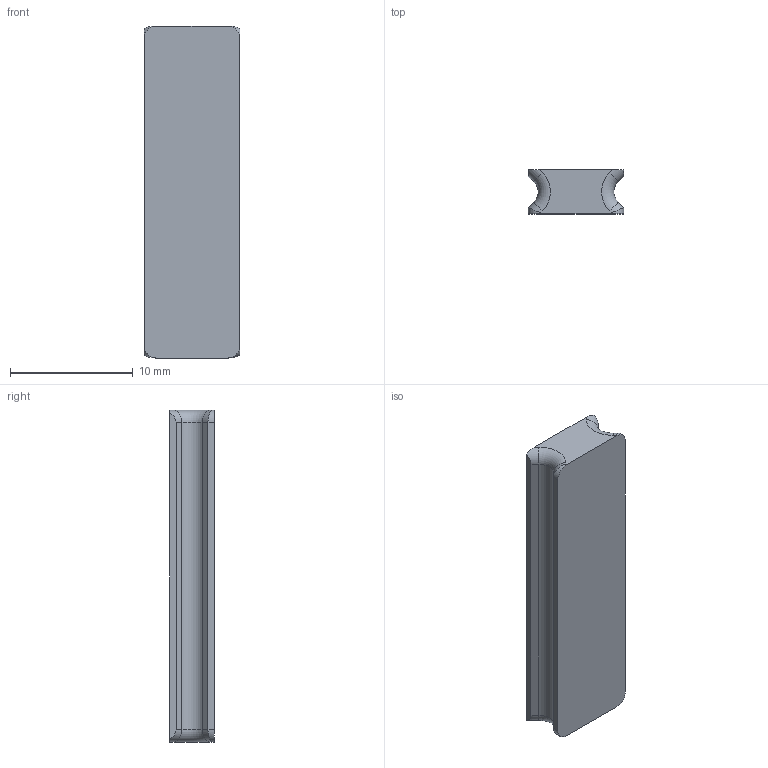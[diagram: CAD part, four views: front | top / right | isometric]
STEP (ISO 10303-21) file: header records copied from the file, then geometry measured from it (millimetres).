
FILE_DESCRIPTION(/* description */ (''),/* implementation_level */ '2;1');
FILE_NAME(/* name */ 'BOX_connect_z030_c027.stp',/* time_stamp */ '2024-02-16T08:50:18+01:00',/* author */ ('ott'),/* organization */ (''),/* preprocessor_version */ 'ST-DEVELOPER v19.2',/* originating_system */ 'Autodesk Inventor 2023',/* authorisation */ '');
FILE_SCHEMA (('AUTOMOTIVE_DESIGN { 1 0 10303 214 3 1 1 }'));
Length unit declared in the file: millimetre
Products named in the file (1): BOX P25 Verbinder
Bounding box: 7.77 x 3.6 x 27 mm (x, y, z)
Volume: 677.4 mm3; surface area: 686.9 mm2
Topology: 1 solids, 1 shells, 30 faces, 72 edges, 44 vertices
Faces by surface type: cylinder 14, plane 12, torus 4
Entity records: 954 total; most frequent: DIRECTION 166, CARTESIAN_POINT 147, ORIENTED_EDGE 144, EDGE_CURVE 72, AXIS2_PLACEMENT_3D 63, VERTEX_POINT 44, LINE 40, VECTOR 40
